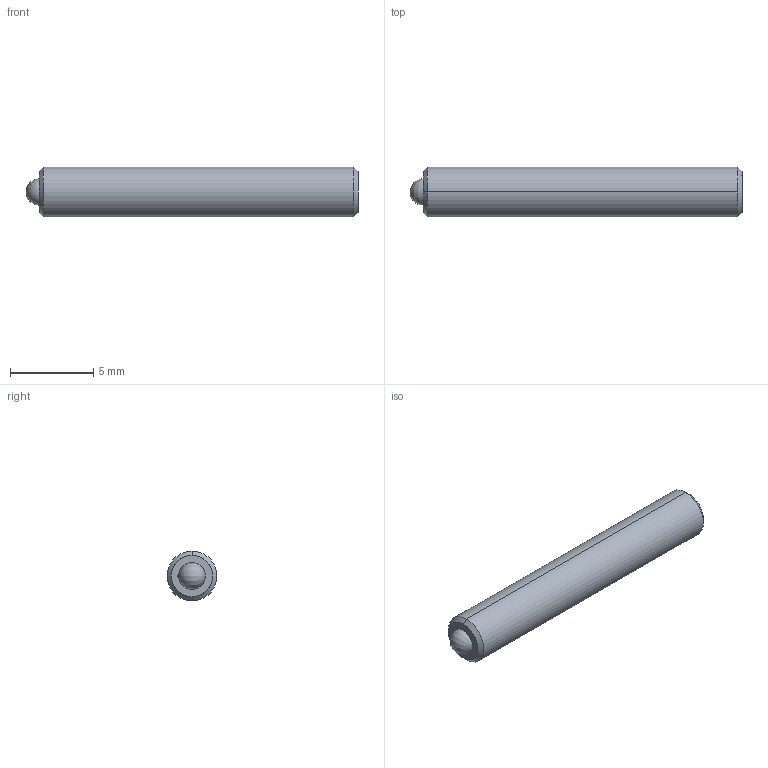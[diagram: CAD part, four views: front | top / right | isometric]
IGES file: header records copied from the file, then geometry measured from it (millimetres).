
Start section: SolidWorks IGES file using analytic representation for surfaces
Global section: file name: C:\Users\workpc\Desktop\KMA Solidworks\TS3-20 Series\TS3-20 High Vacuum\TS3-20 High Vacuum 3D Models\TS3-20-20-HV.IGS; native system: SolidWorks 2013; preprocessor: SolidWorks 2013; author: workpc; date: 130510.121523; units: millimetre
Bounding box: 20 x 3 x 3 mm (x, y, z)
Surface area: 214.6 mm2 (no closed solid volume)
Topology: 0 solids, 0 shells, 24 faces, 208 edges, 204 vertices
Faces by surface type: revolution 14, bspline 10
